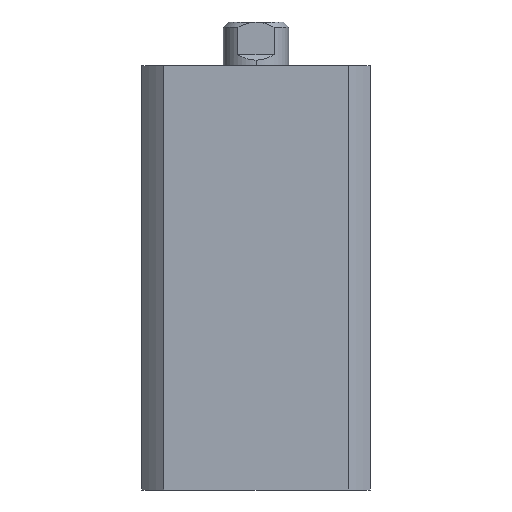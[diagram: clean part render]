
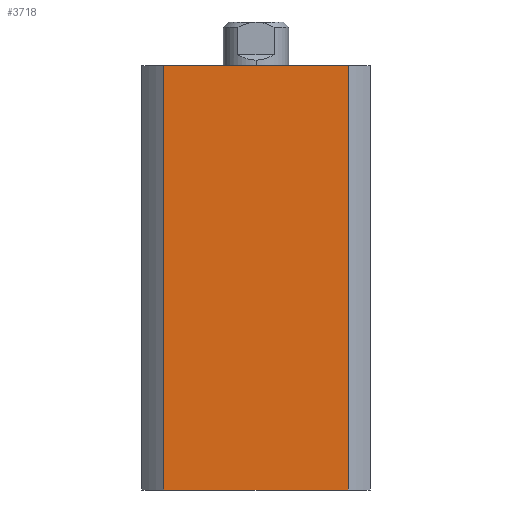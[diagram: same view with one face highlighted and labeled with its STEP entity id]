
A CAD part, left-side view. The second image highlights one B-rep face of the part: STEP entity #3718.
In plain terms, the highlighted planar face has unit normal (-1, 0, 0).
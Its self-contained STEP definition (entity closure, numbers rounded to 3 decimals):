
#1341 = EDGE_LOOP ( 'NONE', ( #2505, #2577, #2580, #2583 ) ) ;
#2008 = VECTOR ( 'NONE', #4665, 1000. ) ;
#2010 = VECTOR ( 'NONE', #4667, 1000. ) ;
#2011 = LINE ( 'NONE', #4666, #2008 ) ;
#2013 = LINE ( 'NONE', #4668, #2010 ) ;
#2024 = VECTOR ( 'NONE', #4698, 1000. ) ;
#2029 = LINE ( 'NONE', #4692, #2024 ) ;
#2087 = VECTOR ( 'NONE', #4917, 1000. ) ;
#2089 = LINE ( 'NONE', #4915, #2087 ) ;
#2151 = FACE_OUTER_BOUND ( 'NONE', #1341, .T. ) ;
#2505 = ORIENTED_EDGE ( 'NONE', *, *, #4405, .F. ) ;
#2577 = ORIENTED_EDGE ( 'NONE', *, *, #4397, .F. ) ;
#2580 = ORIENTED_EDGE ( 'NONE', *, *, #4406, .F. ) ;
#2583 = ORIENTED_EDGE ( 'NONE', *, *, #4348, .T. ) ;
#2661 = VERTEX_POINT ( 'NONE', #4164 ) ;
#2783 = VERTEX_POINT ( 'NONE', #4321 ) ;
#2786 = VERTEX_POINT ( 'NONE', #4318 ) ;
#2787 = VERTEX_POINT ( 'NONE', #4317 ) ;
#3295 = AXIS2_PLACEMENT_3D ( 'NONE', #4937, #4899, #4895 ) ;
#3718 = ADVANCED_FACE ( 'NONE', ( #2151 ), #4906, .F. ) ;
#4164 = CARTESIAN_POINT ( 'NONE',  ( -21., -16.971, 78. ) ) ;
#4317 = CARTESIAN_POINT ( 'NONE',  ( -21., 16.971, 78. ) ) ;
#4318 = CARTESIAN_POINT ( 'NONE',  ( -21., 16.971, 0. ) ) ;
#4321 = CARTESIAN_POINT ( 'NONE',  ( -21., -16.971, 0. ) ) ;
#4348 = EDGE_CURVE ( 'NONE', #2786, #2783, #2089, .T. ) ;
#4397 = EDGE_CURVE ( 'NONE', #2787, #2661, #2029, .T. ) ;
#4405 = EDGE_CURVE ( 'NONE', #2661, #2783, #2013, .T. ) ;
#4406 = EDGE_CURVE ( 'NONE', #2786, #2787, #2011, .T. ) ;
#4665 = DIRECTION ( 'NONE',  ( 0., 0., 1. ) ) ;
#4666 = CARTESIAN_POINT ( 'NONE',  ( -21., 16.971, 78. ) ) ;
#4667 = DIRECTION ( 'NONE',  ( 0., 0., -1. ) ) ;
#4668 = CARTESIAN_POINT ( 'NONE',  ( -21., -16.971, 78. ) ) ;
#4692 = CARTESIAN_POINT ( 'NONE',  ( -21., 21., 78. ) ) ;
#4698 = DIRECTION ( 'NONE',  ( 0., -1., 0. ) ) ;
#4895 = DIRECTION ( 'NONE',  ( 0., 1., 0. ) ) ;
#4899 = DIRECTION ( 'NONE',  ( 1., 0., 0. ) ) ;
#4906 = PLANE ( 'NONE',  #3295 ) ;
#4915 = CARTESIAN_POINT ( 'NONE',  ( -21., 21., 0. ) ) ;
#4917 = DIRECTION ( 'NONE',  ( 0., -1., 0. ) ) ;
#4937 = CARTESIAN_POINT ( 'NONE',  ( -21., 21., 78. ) ) ;
